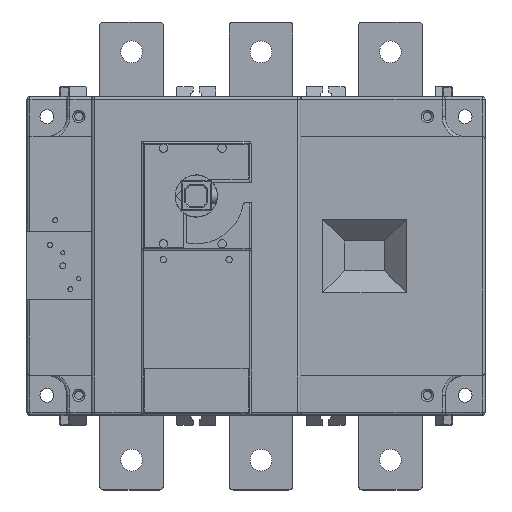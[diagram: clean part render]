
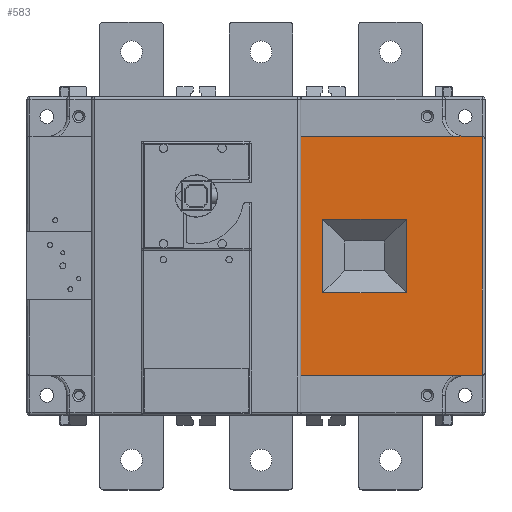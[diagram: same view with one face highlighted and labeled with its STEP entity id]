
A CAD part, top view. The second image highlights one B-rep face of the part: STEP entity #583.
In plain terms, the highlighted planar face has unit normal (0, 0, 1).
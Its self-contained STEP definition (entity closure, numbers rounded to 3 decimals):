
#583=ADVANCED_FACE('',(#1502,#1638),#1166,.T.);
#1166=PLANE('',#10454);
#1502=FACE_BOUND('',#2207,.T.);
#1638=FACE_OUTER_BOUND('',#2208,.T.);
#2207=EDGE_LOOP('',(#3454,#3455,#3456,#3457));
#2208=EDGE_LOOP('',(#3458,#3459,#3460,#3461));
#3454=ORIENTED_EDGE('',*,*,#7281,.T.);
#3455=ORIENTED_EDGE('',*,*,#7284,.T.);
#3456=ORIENTED_EDGE('',*,*,#7285,.T.);
#3457=ORIENTED_EDGE('',*,*,#7286,.T.);
#3458=ORIENTED_EDGE('',*,*,#7287,.T.);
#3459=ORIENTED_EDGE('',*,*,#7288,.T.);
#3460=ORIENTED_EDGE('',*,*,#7289,.T.);
#3461=ORIENTED_EDGE('',*,*,#7290,.T.);
#6308=VERTEX_POINT('',#15058);
#6309=VERTEX_POINT('',#15060);
#6311=VERTEX_POINT('',#15066);
#6312=VERTEX_POINT('',#15068);
#6313=VERTEX_POINT('',#15071);
#6314=VERTEX_POINT('',#15072);
#6315=VERTEX_POINT('',#15074);
#6316=VERTEX_POINT('',#15076);
#7281=EDGE_CURVE('',#6309,#6308,#8706,.T.);
#7284=EDGE_CURVE('',#6308,#6311,#8709,.T.);
#7285=EDGE_CURVE('',#6311,#6312,#8710,.T.);
#7286=EDGE_CURVE('',#6312,#6309,#8711,.T.);
#7287=EDGE_CURVE('',#6313,#6314,#8712,.T.);
#7288=EDGE_CURVE('',#6314,#6315,#8713,.T.);
#7289=EDGE_CURVE('',#6315,#6316,#8714,.T.);
#7290=EDGE_CURVE('',#6316,#6313,#8715,.T.);
#8706=LINE('',#15059,#9673);
#8709=LINE('',#15065,#9676);
#8710=LINE('',#15067,#9677);
#8711=LINE('',#15069,#9678);
#8712=LINE('',#15070,#9679);
#8713=LINE('',#15073,#9680);
#8714=LINE('',#15075,#9681);
#8715=LINE('',#15077,#9682);
#9673=VECTOR('',#11795,1.);
#9676=VECTOR('',#11800,1.);
#9677=VECTOR('',#11801,1.);
#9678=VECTOR('',#11802,1.);
#9679=VECTOR('',#11803,1.);
#9680=VECTOR('',#11804,1.);
#9681=VECTOR('',#11805,1.);
#9682=VECTOR('',#11806,1.);
#10454=AXIS2_PLACEMENT_3D('',#15078,#11807,#11808);
#11795=DIRECTION('',(0.,1.,0.));
#11800=DIRECTION('',(1.,0.,0.));
#11801=DIRECTION('',(0.,-1.,0.));
#11802=DIRECTION('',(-1.,0.,0.));
#11803=DIRECTION('',(-1.,0.,0.));
#11804=DIRECTION('',(0.,-1.,0.));
#11805=DIRECTION('',(1.,0.,0.));
#11806=DIRECTION('',(0.,1.,0.));
#11807=DIRECTION('',(0.,0.,1.));
#11808=DIRECTION('',(1.,0.,0.));
#15058=CARTESIAN_POINT('',(63.5,-11.5,-38.));
#15059=CARTESIAN_POINT('',(63.5,-30.,-38.));
#15060=CARTESIAN_POINT('',(63.5,-48.5,-38.));
#15065=CARTESIAN_POINT('',(91.,-11.5,-38.));
#15066=CARTESIAN_POINT('',(105.5,-11.5,-38.));
#15067=CARTESIAN_POINT('',(105.5,-30.,-38.));
#15068=CARTESIAN_POINT('',(105.5,-48.5,-38.));
#15069=CARTESIAN_POINT('',(84.5,-48.5,-38.));
#15070=CARTESIAN_POINT('',(92.,30.,-38.));
#15071=CARTESIAN_POINT('',(143.5,30.,-38.));
#15072=CARTESIAN_POINT('',(52.5,30.,-38.));
#15073=CARTESIAN_POINT('',(52.5,-30.,-38.));
#15074=CARTESIAN_POINT('',(52.5,-90.,-38.));
#15075=CARTESIAN_POINT('',(58.875,-90.,-38.));
#15076=CARTESIAN_POINT('',(143.5,-90.,-38.));
#15077=CARTESIAN_POINT('',(143.5,-30.,-38.));
#15078=CARTESIAN_POINT('',(91.,-30.,-38.));
